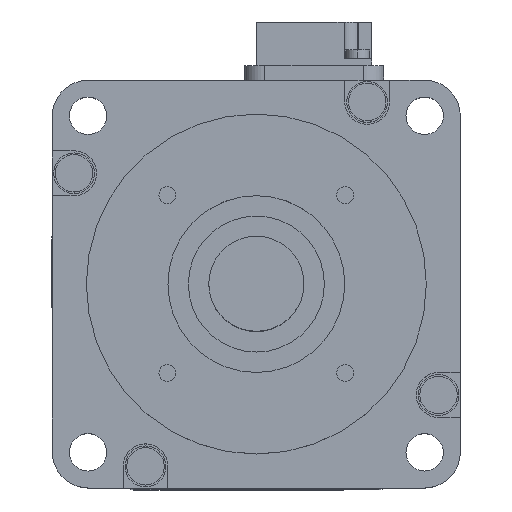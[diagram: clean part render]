
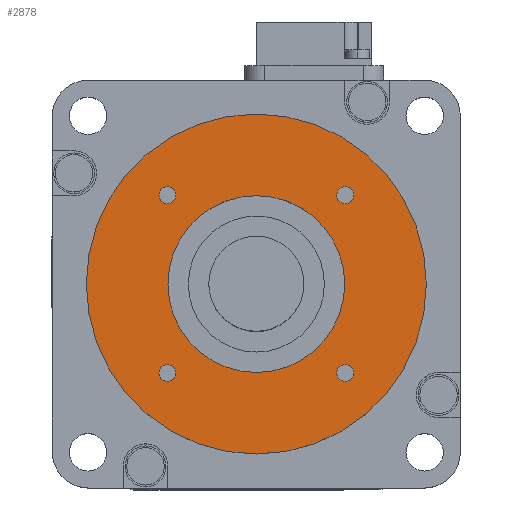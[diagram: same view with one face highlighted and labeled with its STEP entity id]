
A CAD part, top view. The second image highlights one B-rep face of the part: STEP entity #2878.
In plain terms, the highlighted planar face has unit normal (0, 0, 1).
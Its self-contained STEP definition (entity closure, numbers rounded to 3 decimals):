
#1209 = VERTEX_POINT ( 'NONE', #5832 ) ;
#1219 = EDGE_CURVE ( 'NONE', #1227, #1220, #5817, .T. ) ;
#1220 = VERTEX_POINT ( 'NONE', #5871 ) ;
#1227 = VERTEX_POINT ( 'NONE', #5859 ) ;
#1246 = EDGE_CURVE ( 'NONE', #1209, #1247, #5888, .T. ) ;
#1247 = VERTEX_POINT ( 'NONE', #5883 ) ;
#1258 = VERTEX_POINT ( 'NONE', #5927 ) ;
#1283 = EDGE_CURVE ( 'NONE', #1258, #1284, #5950, .T. ) ;
#1284 = VERTEX_POINT ( 'NONE', #5945 ) ;
#1301 = VERTEX_POINT ( 'NONE', #6035 ) ;
#1303 = EDGE_CURVE ( 'NONE', #1301, #1304, #6034, .T. ) ;
#1304 = VERTEX_POINT ( 'NONE', #6029 ) ;
#2864 = EDGE_CURVE ( 'NONE', #1247, #1209, #8919, .T. ) ;
#2865 = ORIENTED_EDGE ( 'NONE', *, *, #1246, .F. ) ;
#2866 = EDGE_LOOP ( 'NONE', ( #2867, #2920 ) ) ;
#2867 = ORIENTED_EDGE ( 'NONE', *, *, #2868, .F. ) ;
#2868 = EDGE_CURVE ( 'NONE', #1284, #1258, #8914, .T. ) ;
#2878 = ADVANCED_FACE ( 'NONE', ( #8898, #8897, #8896, #8895, #8894, #8893 ), #8892, .T. ) ;
#2879 = EDGE_LOOP ( 'NONE', ( #2880, #2933 ) ) ;
#2880 = ORIENTED_EDGE ( 'NONE', *, *, #2881, .F. ) ;
#2881 = EDGE_CURVE ( 'NONE', #1304, #1301, #8956, .T. ) ;
#2920 = ORIENTED_EDGE ( 'NONE', *, *, #1283, .F. ) ;
#2921 = EDGE_LOOP ( 'NONE', ( #2922, #2924 ) ) ;
#2922 = ORIENTED_EDGE ( 'NONE', *, *, #2923, .T. ) ;
#2923 = EDGE_CURVE ( 'NONE', #3409, #3408, #9016, .T. ) ;
#2924 = ORIENTED_EDGE ( 'NONE', *, *, #3407, .T. ) ;
#2925 = EDGE_LOOP ( 'NONE', ( #2926, #2927 ) ) ;
#2926 = ORIENTED_EDGE ( 'NONE', *, *, #3391, .F. ) ;
#2927 = ORIENTED_EDGE ( 'NONE', *, *, #2928, .F. ) ;
#2928 = EDGE_CURVE ( 'NONE', #3393, #3392, #9007, .T. ) ;
#2933 = ORIENTED_EDGE ( 'NONE', *, *, #1303, .F. ) ;
#2934 = EDGE_LOOP ( 'NONE', ( #2935, #2937 ) ) ;
#2935 = ORIENTED_EDGE ( 'NONE', *, *, #2936, .F. ) ;
#2936 = EDGE_CURVE ( 'NONE', #1220, #1227, #8995, .T. ) ;
#2937 = ORIENTED_EDGE ( 'NONE', *, *, #1219, .F. ) ;
#2938 = EDGE_LOOP ( 'NONE', ( #2939, #2865 ) ) ;
#2939 = ORIENTED_EDGE ( 'NONE', *, *, #2864, .F. ) ;
#3391 = EDGE_CURVE ( 'NONE', #3392, #3393, #10344, .T. ) ;
#3392 = VERTEX_POINT ( 'NONE', #10340 ) ;
#3393 = VERTEX_POINT ( 'NONE', #10339 ) ;
#3407 = EDGE_CURVE ( 'NONE', #3408, #3409, #10373, .T. ) ;
#3408 = VERTEX_POINT ( 'NONE', #10369 ) ;
#3409 = VERTEX_POINT ( 'NONE', #10368 ) ;
#5815 = CARTESIAN_POINT ( 'NONE',  ( -13.081, -13.081, 3. ) ) ;
#5816 = AXIS2_PLACEMENT_3D ( 'NONE', #5815, #5873, #5872 ) ;
#5817 = CIRCLE ( 'NONE', #5816, 1.25 ) ;
#5832 = CARTESIAN_POINT ( 'NONE',  ( -14.331, 13.081, 3. ) ) ;
#5859 = CARTESIAN_POINT ( 'NONE',  ( -14.331, -13.081, 3. ) ) ;
#5871 = CARTESIAN_POINT ( 'NONE',  ( -11.831, -13.081, 3. ) ) ;
#5872 = DIRECTION ( 'NONE',  ( -1., 0., 0. ) ) ;
#5873 = DIRECTION ( 'NONE',  ( 0., 0., 1. ) ) ;
#5883 = CARTESIAN_POINT ( 'NONE',  ( -11.831, 13.081, 3. ) ) ;
#5884 = DIRECTION ( 'NONE',  ( 0., 1., 0. ) ) ;
#5885 = DIRECTION ( 'NONE',  ( 0., 0., 1. ) ) ;
#5886 = CARTESIAN_POINT ( 'NONE',  ( -13.081, 13.081, 3. ) ) ;
#5887 = AXIS2_PLACEMENT_3D ( 'NONE', #5886, #5885, #5884 ) ;
#5888 = CIRCLE ( 'NONE', #5887, 1.25 ) ;
#5927 = CARTESIAN_POINT ( 'NONE',  ( 11.831, 13.081, 3. ) ) ;
#5945 = CARTESIAN_POINT ( 'NONE',  ( 14.331, 13.081, 3. ) ) ;
#5946 = DIRECTION ( 'NONE',  ( 1., 0., 0. ) ) ;
#5947 = DIRECTION ( 'NONE',  ( 0., 0., 1. ) ) ;
#5948 = CARTESIAN_POINT ( 'NONE',  ( 13.081, 13.081, 3. ) ) ;
#5949 = AXIS2_PLACEMENT_3D ( 'NONE', #5948, #5947, #5946 ) ;
#5950 = CIRCLE ( 'NONE', #5949, 1.25 ) ;
#6029 = CARTESIAN_POINT ( 'NONE',  ( 14.331, -13.081, 3. ) ) ;
#6030 = DIRECTION ( 'NONE',  ( 0., -1., 0. ) ) ;
#6031 = DIRECTION ( 'NONE',  ( 0., 0., 1. ) ) ;
#6032 = CARTESIAN_POINT ( 'NONE',  ( 13.081, -13.081, 3. ) ) ;
#6033 = AXIS2_PLACEMENT_3D ( 'NONE', #6032, #6031, #6030 ) ;
#6034 = CIRCLE ( 'NONE', #6033, 1.25 ) ;
#6035 = CARTESIAN_POINT ( 'NONE',  ( 11.831, -13.081, 3. ) ) ;
#8888 = DIRECTION ( 'NONE',  ( 1., 0., 0. ) ) ;
#8889 = DIRECTION ( 'NONE',  ( 0., 0., 1. ) ) ;
#8890 = CARTESIAN_POINT ( 'NONE',  ( 0., 25., 3. ) ) ;
#8891 = AXIS2_PLACEMENT_3D ( 'NONE', #8890, #8889, #8888 ) ;
#8892 = PLANE ( 'NONE',  #8891 ) ;
#8893 = FACE_OUTER_BOUND ( 'NONE', #2925, .T. ) ;
#8894 = FACE_BOUND ( 'NONE', #2921, .T. ) ;
#8895 = FACE_BOUND ( 'NONE', #2866, .T. ) ;
#8896 = FACE_BOUND ( 'NONE', #2938, .T. ) ;
#8897 = FACE_BOUND ( 'NONE', #2934, .T. ) ;
#8898 = FACE_BOUND ( 'NONE', #2879, .T. ) ;
#8910 = DIRECTION ( 'NONE',  ( 1., 0., 0. ) ) ;
#8911 = DIRECTION ( 'NONE',  ( 0., 0., 1. ) ) ;
#8912 = CARTESIAN_POINT ( 'NONE',  ( 13.081, 13.081, 3. ) ) ;
#8913 = AXIS2_PLACEMENT_3D ( 'NONE', #8912, #8911, #8910 ) ;
#8914 = CIRCLE ( 'NONE', #8913, 1.25 ) ;
#8915 = DIRECTION ( 'NONE',  ( 0., 1., 0. ) ) ;
#8916 = DIRECTION ( 'NONE',  ( 0., 0., 1. ) ) ;
#8917 = CARTESIAN_POINT ( 'NONE',  ( -13.081, 13.081, 3. ) ) ;
#8918 = AXIS2_PLACEMENT_3D ( 'NONE', #8917, #8916, #8915 ) ;
#8919 = CIRCLE ( 'NONE', #8918, 1.25 ) ;
#8952 = DIRECTION ( 'NONE',  ( 0., -1., 0. ) ) ;
#8953 = DIRECTION ( 'NONE',  ( 0., 0., 1. ) ) ;
#8954 = CARTESIAN_POINT ( 'NONE',  ( 13.081, -13.081, 3. ) ) ;
#8955 = AXIS2_PLACEMENT_3D ( 'NONE', #8954, #8953, #8952 ) ;
#8956 = CIRCLE ( 'NONE', #8955, 1.25 ) ;
#8992 = DIRECTION ( 'NONE',  ( -1., 0., 0. ) ) ;
#8993 = DIRECTION ( 'NONE',  ( 0., 0., 1. ) ) ;
#8994 = AXIS2_PLACEMENT_3D ( 'NONE', #9000, #8993, #8992 ) ;
#8995 = CIRCLE ( 'NONE', #8994, 1.25 ) ;
#9000 = CARTESIAN_POINT ( 'NONE',  ( -13.081, -13.081, 3. ) ) ;
#9003 = DIRECTION ( 'NONE',  ( -1., 0., 0. ) ) ;
#9004 = DIRECTION ( 'NONE',  ( 0., 0., -1. ) ) ;
#9005 = CARTESIAN_POINT ( 'NONE',  ( 0., 0., 3. ) ) ;
#9006 = AXIS2_PLACEMENT_3D ( 'NONE', #9005, #9004, #9003 ) ;
#9007 = CIRCLE ( 'NONE', #9006, 25. ) ;
#9008 = DIRECTION ( 'NONE',  ( -1., 0., 0. ) ) ;
#9009 = DIRECTION ( 'NONE',  ( 0., 0., -1. ) ) ;
#9010 = CARTESIAN_POINT ( 'NONE',  ( 0., 0., 3. ) ) ;
#9011 = AXIS2_PLACEMENT_3D ( 'NONE', #9010, #9009, #9008 ) ;
#9016 = CIRCLE ( 'NONE', #9011, 13. ) ;
#10339 = CARTESIAN_POINT ( 'NONE',  ( 25., 0., 3. ) ) ;
#10340 = CARTESIAN_POINT ( 'NONE',  ( -25., 0., 3. ) ) ;
#10341 = DIRECTION ( 'NONE',  ( -1., 0., 0. ) ) ;
#10342 = DIRECTION ( 'NONE',  ( 0., 0., -1. ) ) ;
#10343 = AXIS2_PLACEMENT_3D ( 'NONE', #10350, #10342, #10341 ) ;
#10344 = CIRCLE ( 'NONE', #10343, 25. ) ;
#10350 = CARTESIAN_POINT ( 'NONE',  ( 0., 0., 3. ) ) ;
#10368 = CARTESIAN_POINT ( 'NONE',  ( -13., 0., 3. ) ) ;
#10369 = CARTESIAN_POINT ( 'NONE',  ( 13., 0., 3. ) ) ;
#10370 = DIRECTION ( 'NONE',  ( -1., 0., 0. ) ) ;
#10371 = DIRECTION ( 'NONE',  ( 0., 0., -1. ) ) ;
#10372 = AXIS2_PLACEMENT_3D ( 'NONE', #10379, #10371, #10370 ) ;
#10373 = CIRCLE ( 'NONE', #10372, 13. ) ;
#10379 = CARTESIAN_POINT ( 'NONE',  ( 0., 0., 3. ) ) ;
